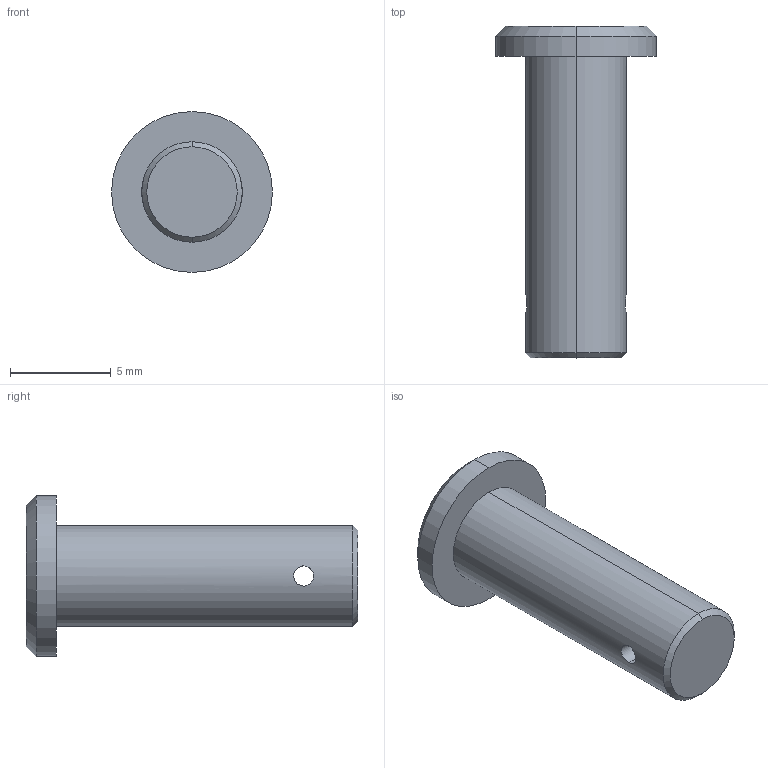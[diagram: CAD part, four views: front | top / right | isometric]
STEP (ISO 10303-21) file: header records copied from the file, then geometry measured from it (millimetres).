
FILE_DESCRIPTION (( 'STEP AP203' ), '1' );
FILE_NAME ('Default.step', '2023-10-06T10:01:13', ( '' ), ( '' ), 'SwSTEP 2.0', 'SolidWorks 2019', '' );
FILE_SCHEMA (( 'CONFIG_CONTROL_DESIGN' ));
Length unit declared in the file: millimetre
Products named in the file (1): Default
Bounding box: 8 x 16.5 x 8 mm (x, y, z)
Volume: 362.5 mm3; surface area: 377.8 mm2
Topology: 1 solids, 1 shells, 13 faces, 26 edges, 16 vertices
Faces by surface type: cylinder 6, cone 4, plane 3
Entity records: 449 total; most frequent: CARTESIAN_POINT 92, DIRECTION 62, ORIENTED_EDGE 52, AXIS2_PLACEMENT_3D 26, EDGE_CURVE 26, EDGE_LOOP 16, VERTEX_POINT 16, ADVANCED_FACE 13
